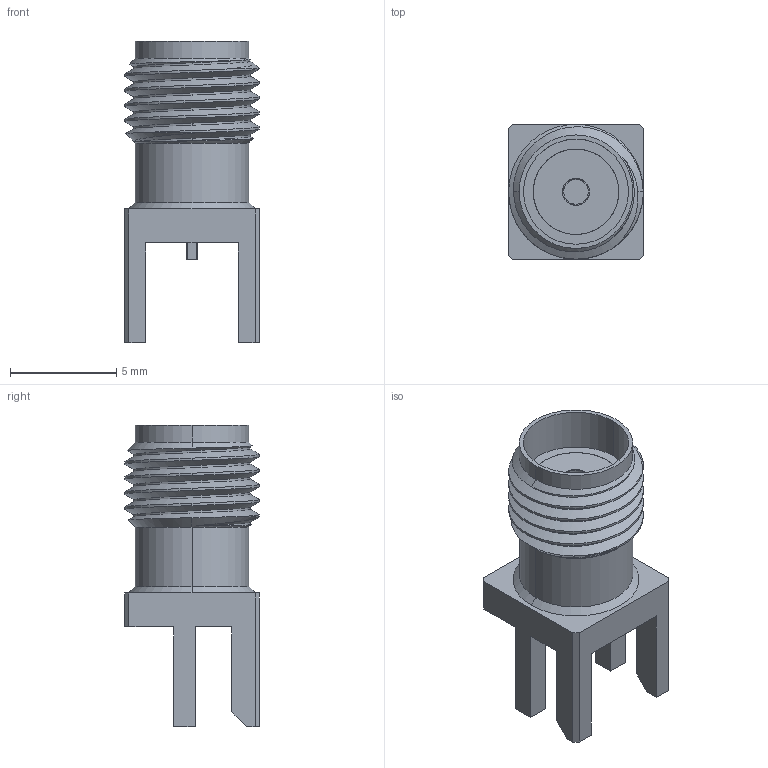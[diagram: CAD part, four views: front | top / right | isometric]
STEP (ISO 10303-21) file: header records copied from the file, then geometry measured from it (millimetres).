
FILE_DESCRIPTION (( 'STEP AP214' ), '1' );
FILE_NAME ('60312202114513.STEP', '2022-12-18T11:00:01', ( '' ), ( '' ), 'SwSTEP 2.0', 'SolidWorks 2021', '' );
FILE_SCHEMA (( 'AUTOMOTIVE_DESIGN' ));
Length unit declared in the file: millimetre
Products named in the file (1): 60312202114513
Bounding box: 6.35 x 6.35 x 14.2 mm (x, y, z)
Volume: 231.9 mm3; surface area: 671.2 mm2
Topology: 3 solids, 3 shells, 114 faces, 285 edges, 184 vertices
Faces by surface type: cylinder 54, plane 45, cone 9, torus 4, bspline 2
Entity records: 4276 total; most frequent: CARTESIAN_POINT 1590, ORIENTED_EDGE 570, DIRECTION 533, EDGE_CURVE 285, AXIS2_PLACEMENT_3D 194, VERTEX_POINT 184, VECTOR 145, LINE 145
